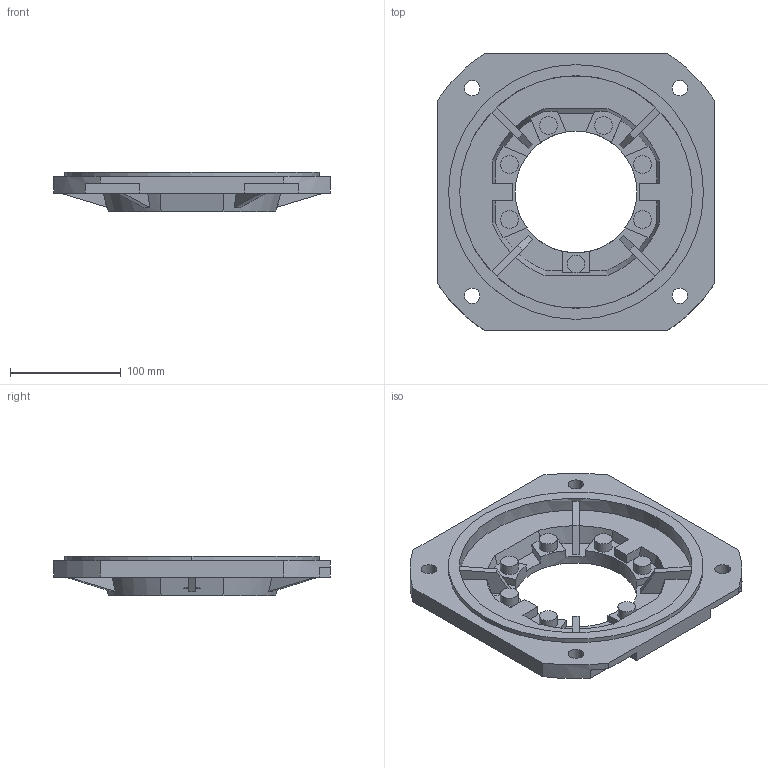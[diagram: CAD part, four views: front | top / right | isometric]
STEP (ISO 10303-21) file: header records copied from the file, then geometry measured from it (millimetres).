
FILE_DESCRIPTION(/* description */ (''),/* implementation_level */ '2;1');
FILE_NAME(/* name */ '1_FLANGIA (CAMPANA) LATERALE FA B063',/* time_stamp */ '2025-10-22T10:50:55+02:00',/* author */ (''),/* organization */ (''),/* preprocessor_version */ 'ST-DEVELOPER v19.2',/* originating_system */ 'Rhino 8.23',/* authorisation */ '');
FILE_SCHEMA (('CONFIG_CONTROL_DESIGN'));
Length unit declared in the file: millimetre
Products named in the file (2): Document; BFU063FA
Bounding box: 250 x 250 x 36 mm (x, y, z)
Volume: 653915.7 mm3; surface area: 154419.5 mm2
Topology: 1 solids, 1 shells, 151 faces, 420 edges, 280 vertices
Faces by surface type: plane 99, cylinder 40, bspline 12
Entity records: 6442 total; most frequent: CARTESIAN_POINT 1709, ORIENTED_EDGE 840, EDGE_CURVE 420, DIRECTION 391, B_SPLINE_CURVE_WITH_KNOTS 282, VERTEX_POINT 280, AXIS2_PLACEMENT_3D 265, EDGE_LOOP 170
